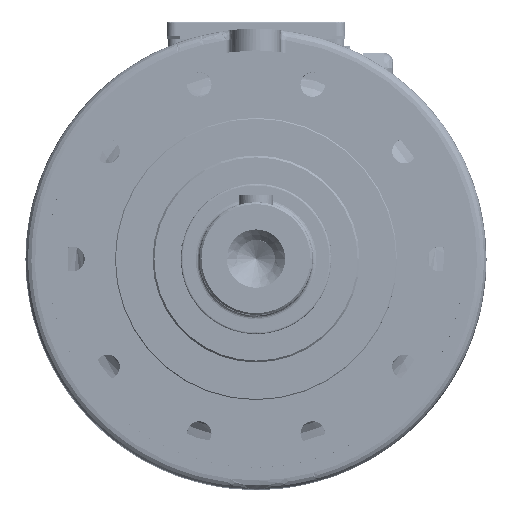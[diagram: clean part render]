
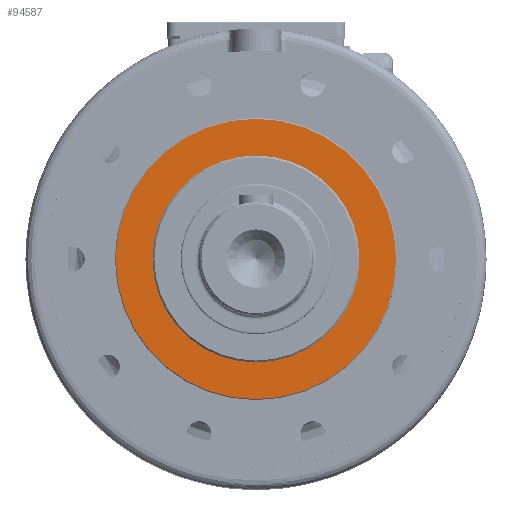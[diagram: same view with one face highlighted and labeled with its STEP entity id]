
A CAD part, top view. The second image highlights one B-rep face of the part: STEP entity #94587.
In plain terms, the highlighted planar face has unit normal (0, 0, 1).
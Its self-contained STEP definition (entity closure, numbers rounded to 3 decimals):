
#4872 = CARTESIAN_POINT ( 'NONE',  ( 0., 74.5, 133.6 ) ) ;
#14977 = EDGE_LOOP ( 'NONE', ( #104767, #104699 ) ) ;
#16410 = EDGE_LOOP ( 'NONE', ( #104724, #104809 ) ) ;
#30502 = VERTEX_POINT ( 'NONE', #4872 ) ;
#30838 = VERTEX_POINT ( 'NONE', #238087 ) ;
#30880 = VERTEX_POINT ( 'NONE', #238113 ) ;
#30915 = VERTEX_POINT ( 'NONE', #238278 ) ;
#94587 = ADVANCED_FACE ( 'NONE', ( #194225, #194229 ), #223841, .T. ) ;
#104699 = ORIENTED_EDGE ( 'NONE', *, *, #118899, .T. ) ;
#104724 = ORIENTED_EDGE ( 'NONE', *, *, #118928, .F. ) ;
#104767 = ORIENTED_EDGE ( 'NONE', *, *, #118897, .T. ) ;
#104809 = ORIENTED_EDGE ( 'NONE', *, *, #118935, .F. ) ;
#118897 = EDGE_CURVE ( 'NONE', #30880, #30838, #150285, .T. ) ;
#118899 = EDGE_CURVE ( 'NONE', #30838, #30880, #150275, .T. ) ;
#118928 = EDGE_CURVE ( 'NONE', #30502, #30915, #150260, .T. ) ;
#118935 = EDGE_CURVE ( 'NONE', #30915, #30502, #150409, .T. ) ;
#120734 = CARTESIAN_POINT ( 'NONE',  ( 0., 0., 133.6 ) ) ;
#120771 = DIRECTION ( 'NONE',  ( 0., 0., -1. ) ) ;
#120775 = DIRECTION ( 'NONE',  ( -1., 0., 0. ) ) ;
#120787 = CARTESIAN_POINT ( 'NONE',  ( 0., 0., 133.6 ) ) ;
#120792 = DIRECTION ( 'NONE',  ( 0., 0., -1. ) ) ;
#120811 = DIRECTION ( 'NONE',  ( -1., 0., 0. ) ) ;
#120961 = DIRECTION ( 'NONE',  ( 0., 0., -1. ) ) ;
#121005 = DIRECTION ( 'NONE',  ( 0., 1., 0. ) ) ;
#121042 = CARTESIAN_POINT ( 'NONE',  ( 0., 0., 133.6 ) ) ;
#121049 = DIRECTION ( 'NONE',  ( 0., 0., -1. ) ) ;
#121051 = CARTESIAN_POINT ( 'NONE',  ( 0., 0., 133.6 ) ) ;
#121054 = DIRECTION ( 'NONE',  ( 0., 1., 0. ) ) ;
#131540 = AXIS2_PLACEMENT_3D ( 'NONE', #223842, #223826, #223829 ) ;
#150260 = CIRCLE ( 'NONE', #204538, 74.5 ) ;
#150275 = CIRCLE ( 'NONE', #204550, 55. ) ;
#150285 = CIRCLE ( 'NONE', #204474, 55. ) ;
#150409 = CIRCLE ( 'NONE', #204403, 74.5 ) ;
#194225 = FACE_OUTER_BOUND ( 'NONE', #16410, .T. ) ;
#194229 = FACE_BOUND ( 'NONE', #14977, .T. ) ;
#204403 = AXIS2_PLACEMENT_3D ( 'NONE', #121051, #121049, #121054 ) ;
#204474 = AXIS2_PLACEMENT_3D ( 'NONE', #120787, #120771, #120775 ) ;
#204538 = AXIS2_PLACEMENT_3D ( 'NONE', #121042, #120961, #121005 ) ;
#204550 = AXIS2_PLACEMENT_3D ( 'NONE', #120734, #120792, #120811 ) ;
#223826 = DIRECTION ( 'NONE',  ( 0., 0., 1. ) ) ;
#223829 = DIRECTION ( 'NONE',  ( 0., -1., 0. ) ) ;
#223841 = PLANE ( 'NONE',  #131540 ) ;
#223842 = CARTESIAN_POINT ( 'NONE',  ( 0., 74.5, 133.6 ) ) ;
#238087 = CARTESIAN_POINT ( 'NONE',  ( 55., 0., 133.6 ) ) ;
#238113 = CARTESIAN_POINT ( 'NONE',  ( -55., 0., 133.6 ) ) ;
#238278 = CARTESIAN_POINT ( 'NONE',  ( 0., -74.5, 133.6 ) ) ;
